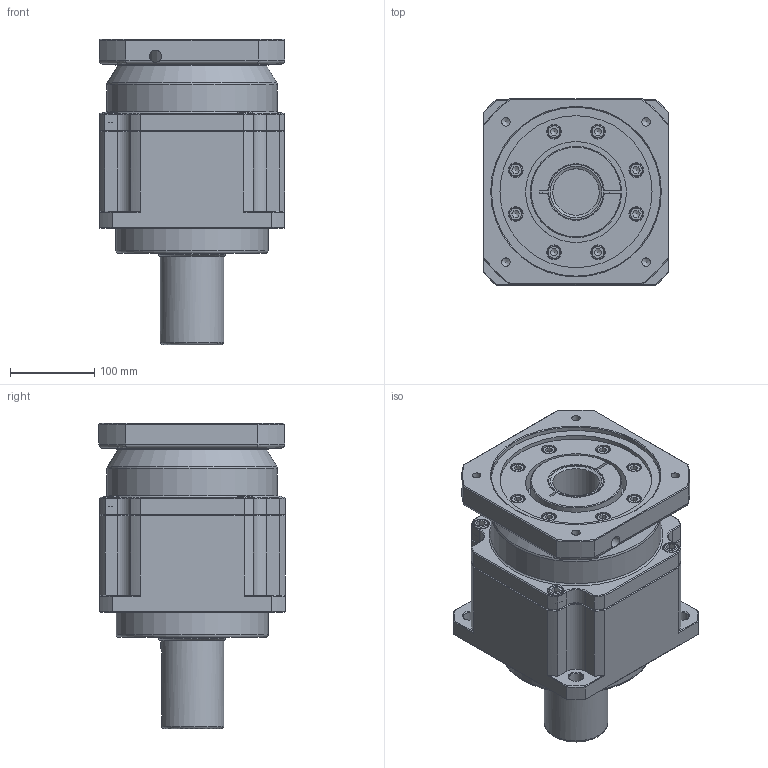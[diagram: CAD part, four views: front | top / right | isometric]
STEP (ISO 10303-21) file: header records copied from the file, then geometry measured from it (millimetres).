
FILE_DESCRIPTION((''),'2;1');
FILE_NAME('C:\인벤터교육\SPI220S003KA\SPI220S003~010KA.stp','2009-11-12T09:54:16',('choejs'),(''),'Autodesk Inventor 2010','Autodesk Inventor 2010','');
FILE_SCHEMA(('AUTOMOTIVE_DESIGN { 1 0 10303 214 1 1 1 1 }'));
Length unit declared in the file: millimetre
Products named in the file (7): SPI220S003KA; CLAMP RING(ㅁ220); Input adapter Flange(ㅁ220); INPUT CASE(ㅁ220); OUTPUT CASE(ㅁ220); KS B 1003 - M 12 x 20; KS B 1003 - M 10 x 20
Assembly tree (16 placements, depth 2):
  SPI220S003KA
    CLAMP RING(ㅁ220)
    Input adapter Flange(ㅁ220)
    INPUT CASE(ㅁ220)
    OUTPUT CASE(ㅁ220)
    KS B 1003 - M 12 x 20  x4
    KS B 1003 - M 10 x 20  x8
Bounding box: 220 x 220.39 x 361.5 mm (x, y, z)
Volume: 8662990.1 mm3; surface area: 576117.4 mm2
Topology: 16 solids, 16 shells, 494 faces, 1108 edges, 683 vertices
Faces by surface type: plane 237, cylinder 105, cone 90, bspline 39, torus 23
Full cylindrical faces by diameter (mm): 10 x8, 11 x4, 12 x4, 13 x4, 14.5 x1, 16 x8, 17 x4, 17.5 x4, 18 x4, 20 x4, 55 x1, 63.5 x1, 65 x1, 75 x1, 79.7 x2, 119.5 x1, 129 x1, 129.5 x1, 130 x1, 140 x2, 144 x1, 180 x3, 190 x1, 200 x2, 202 x1
Entity records: 9966 total; most frequent: CARTESIAN_POINT 2543, DIRECTION 1526, ORIENTED_EDGE 1334, EDGE_CURVE 667, AXIS2_PLACEMENT_3D 631, EDGE_LOOP 502, VERTEX_POINT 455, FACE_OUTER_BOUND 344
